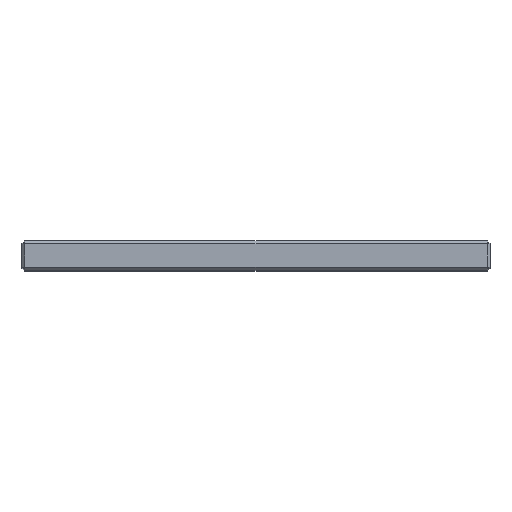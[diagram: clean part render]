
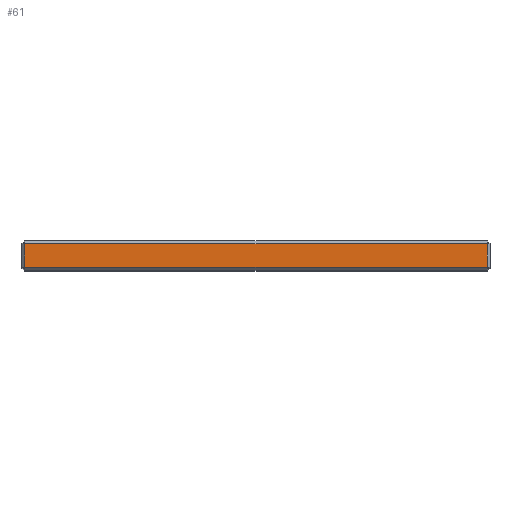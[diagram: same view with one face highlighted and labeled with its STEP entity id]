
A CAD part, top view. The second image highlights one B-rep face of the part: STEP entity #61.
In plain terms, the highlighted planar face has unit normal (0, 0, 1).
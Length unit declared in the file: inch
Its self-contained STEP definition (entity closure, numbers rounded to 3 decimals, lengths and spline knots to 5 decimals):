
#22 = CARTESIAN_POINT ( 'NONE',  ( -3.9375, 0.5, 4.875 ) ) ;
#61 = ADVANCED_FACE ( 'NONE', ( #1159 ), #1140, .F. ) ;
#70 = EDGE_CURVE ( 'NONE', #957, #336, #305, .T. ) ;
#76 = CARTESIAN_POINT ( 'NONE',  ( -3.9375, 0.45, 4.875 ) ) ;
#190 = EDGE_CURVE ( 'NONE', #1004, #957, #1419, .T. ) ;
#257 = VERTEX_POINT ( 'NONE', #1049 ) ;
#305 = LINE ( 'NONE', #698, #1330 ) ;
#321 = VECTOR ( 'NONE', #344, 39.37008 ) ;
#330 = DIRECTION ( 'NONE',  ( 0., 0., -1. ) ) ;
#336 = VERTEX_POINT ( 'NONE', #1332 ) ;
#344 = DIRECTION ( 'NONE',  ( -1., 0., 0. ) ) ;
#349 = CARTESIAN_POINT ( 'NONE',  ( -3.8875, 0.5, 4.875 ) ) ;
#364 = CARTESIAN_POINT ( 'NONE',  ( -3.8875, 0.45, 4.875 ) ) ;
#387 = LINE ( 'NONE', #481, #1022 ) ;
#460 = DIRECTION ( 'NONE',  ( -1., 0., 0. ) ) ;
#481 = CARTESIAN_POINT ( 'NONE',  ( 3.8875, 0.5, 4.875 ) ) ;
#599 = DIRECTION ( 'NONE',  ( 0., -1., 0. ) ) ;
#610 = AXIS2_PLACEMENT_3D ( 'NONE', #22, #330, #460 ) ;
#624 = EDGE_LOOP ( 'NONE', ( #770, #1724, #1402, #1630 ) ) ;
#639 = CARTESIAN_POINT ( 'NONE',  ( -3.8875, 0.05, 4.875 ) ) ;
#698 = CARTESIAN_POINT ( 'NONE',  ( -3.9375, 0.05, 4.875 ) ) ;
#770 = ORIENTED_EDGE ( 'NONE', *, *, #70, .T. ) ;
#787 = VECTOR ( 'NONE', #599, 39.37008 ) ;
#834 = DIRECTION ( 'NONE',  ( 1., 0., 0. ) ) ;
#957 = VERTEX_POINT ( 'NONE', #639 ) ;
#1004 = VERTEX_POINT ( 'NONE', #364 ) ;
#1022 = VECTOR ( 'NONE', #1742, 39.37008 ) ;
#1049 = CARTESIAN_POINT ( 'NONE',  ( 3.8875, 0.45, 4.875 ) ) ;
#1108 = EDGE_CURVE ( 'NONE', #336, #257, #387, .T. ) ;
#1140 = PLANE ( 'NONE',  #610 ) ;
#1159 = FACE_OUTER_BOUND ( 'NONE', #624, .T. ) ;
#1330 = VECTOR ( 'NONE', #834, 39.37008 ) ;
#1332 = CARTESIAN_POINT ( 'NONE',  ( 3.8875, 0.05, 4.875 ) ) ;
#1402 = ORIENTED_EDGE ( 'NONE', *, *, #1493, .T. ) ;
#1419 = LINE ( 'NONE', #349, #787 ) ;
#1493 = EDGE_CURVE ( 'NONE', #257, #1004, #1602, .T. ) ;
#1602 = LINE ( 'NONE', #76, #321 ) ;
#1630 = ORIENTED_EDGE ( 'NONE', *, *, #190, .T. ) ;
#1724 = ORIENTED_EDGE ( 'NONE', *, *, #1108, .T. ) ;
#1742 = DIRECTION ( 'NONE',  ( 0., 1., 0. ) ) ;
